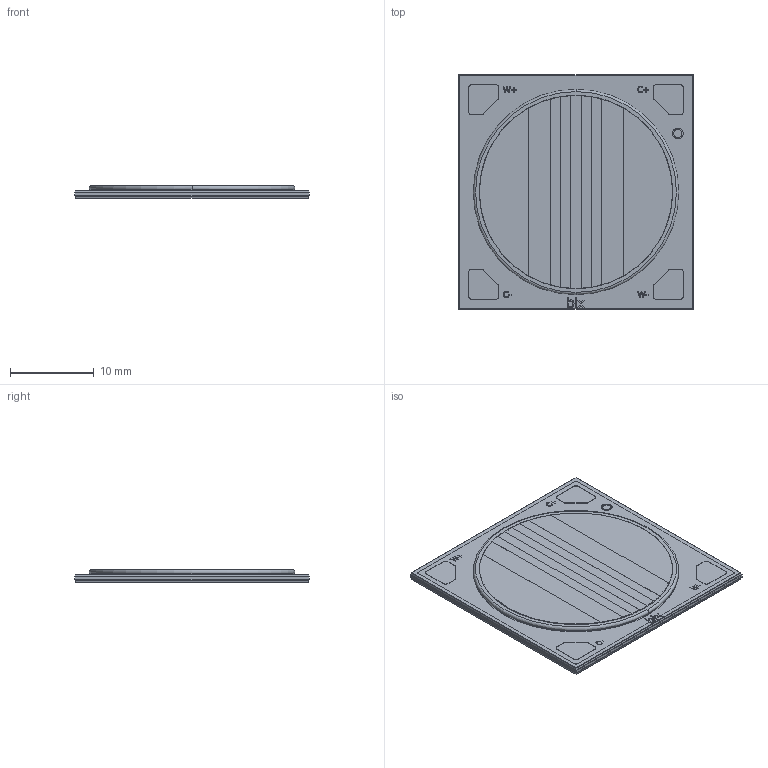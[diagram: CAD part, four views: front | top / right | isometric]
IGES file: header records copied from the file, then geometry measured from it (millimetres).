
Start section: SolidWorks IGES file using analytic representation for surfaces
Global section: file name: C:\Users\michael.solomensky\Desktop\BLX projects\COB\NTW22\DPTW-22.IGS; native system: SolidWorks 2018; preprocessor: SolidWorks 2018; author: michael.solomensky; date: 190328.140712; units: millimetre
Bounding box: 28 x 28 x 1.54 mm (x, y, z)
Volume: 1031.2 mm3; surface area: 6045.1 mm2
Topology: 18 solids, 18 shells, 401 faces, 1026 edges, 674 vertices
Faces by surface type: plane 243, revolution 118, bspline 40
